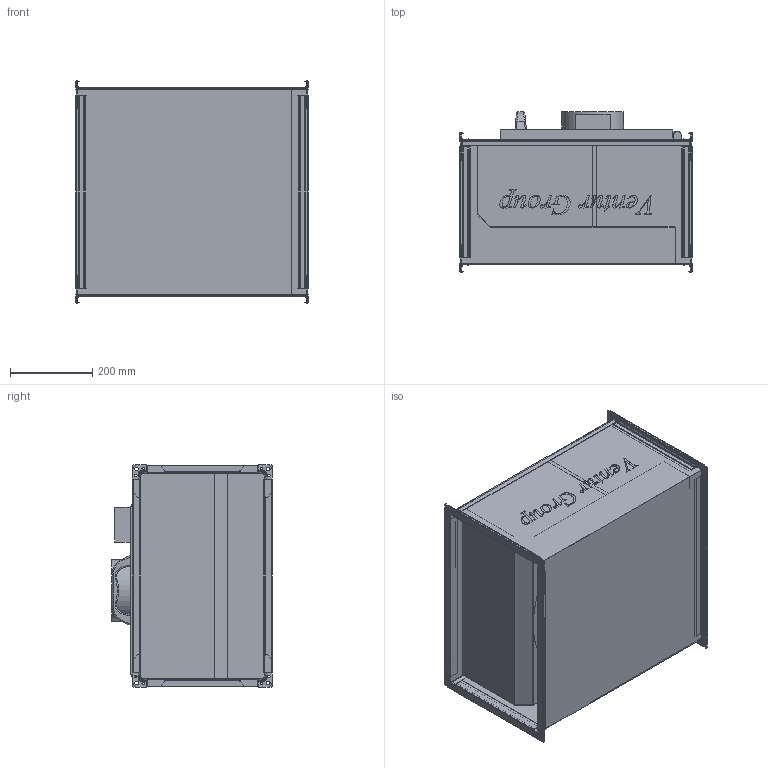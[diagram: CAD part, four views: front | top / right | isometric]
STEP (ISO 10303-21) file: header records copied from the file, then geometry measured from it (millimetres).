
FILE_DESCRIPTION(/* description */ (''),/* implementation_level */ '2;1');
FILE_NAME(/* name */ 'C:\Users\M.Janczarek\Documents\Modele uproszczone\IBF EC\IBF_EC_315S 41010055\IBF_EC_315S 41010055\IBF_EC_315S 41010055.stp',/* time_stamp */ '2018-03-30T11:11:27+02:00',/* author */ ('M.Janczarek'),/* organization */ (''),/* preprocessor_version */ 'ST-DEVELOPER v16.5',/* originating_system */ 'Autodesk Inventor 2017',/* authorisation */ '');
FILE_SCHEMA (('AUTOMOTIVE_DESIGN { 1 0 10303 214 3 1 1 }'));
Products named in the file (1): IBF_EC_315S 41010055
Bounding box: 564.6 x 390.59 x 539.97 mm (x, y, z)
Volume: 17404430 mm3; surface area: 3828604.7 mm2
Topology: 1 solids, 2 shells, 1740 faces, 5003 edges, 3217 vertices
Faces by surface type: plane 800, cylinder 476, bspline 356, torus 64, cone 28, sphere 16
Full cylindrical faces by diameter (mm): 6 x16, 9 x8, 150 x4, 322 x1
Entity records: 63766 total; most frequent: CARTESIAN_POINT 18390, ORIENTED_EDGE 9916, DIRECTION 8168, EDGE_CURVE 4958, VERTEX_POINT 3217, LINE 3078, VECTOR 3078, AXIS2_PLACEMENT_3D 2545
